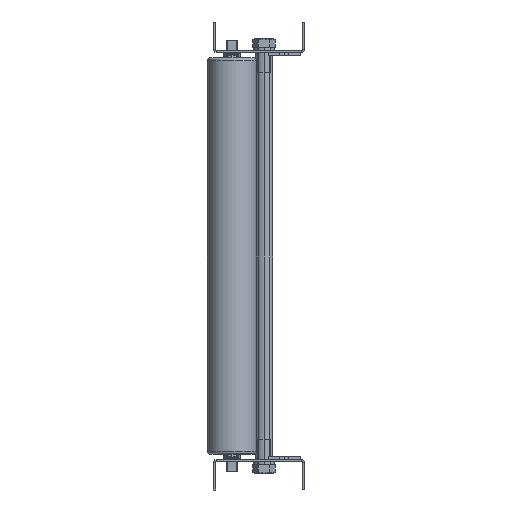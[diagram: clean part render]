
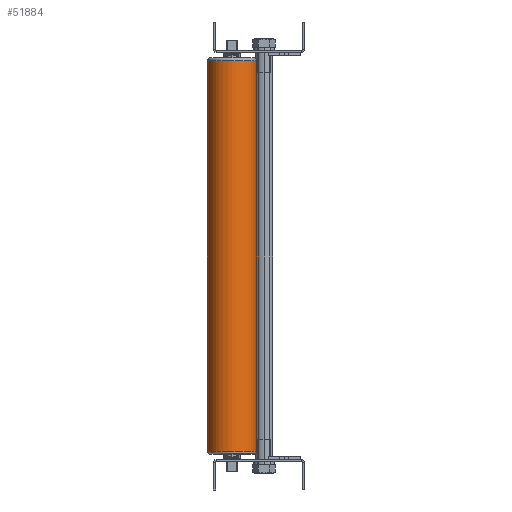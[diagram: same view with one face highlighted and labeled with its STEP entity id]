
A CAD part, left-side view. The second image highlights one B-rep face of the part: STEP entity #51884.
In plain terms, the highlighted cylindrical face has radius 24.3 mm (diameter 48.6 mm), a partial arc.
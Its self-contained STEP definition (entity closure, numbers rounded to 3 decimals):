
#7985 = VERTEX_POINT ( 'NONE', #10286 ) ;
#8436 = AXIS2_PLACEMENT_3D ( 'NONE', #31995, #35472, #36243 ) ;
#9018 = ORIENTED_EDGE ( 'NONE', *, *, #14503, .F. ) ;
#9624 = LINE ( 'NONE', #37870, #42215 ) ;
#10248 = EDGE_CURVE ( 'NONE', #35461, #40352, #44230, .T. ) ;
#10286 = CARTESIAN_POINT ( 'NONE',  ( -1231.041, 259.31, -406.1 ) ) ;
#11194 = FACE_OUTER_BOUND ( 'NONE', #40986, .T. ) ;
#13456 = EDGE_CURVE ( 'NONE', #25773, #35461, #19106, .T. ) ;
#14498 = CIRCLE ( 'NONE', #20419, 24.3 ) ;
#14503 = EDGE_CURVE ( 'NONE', #7985, #40352, #9624, .T. ) ;
#14947 = DIRECTION ( 'NONE',  ( 0., 0., 1. ) ) ;
#15714 = DIRECTION ( 'NONE',  ( -0.167, 0.986, 0. ) ) ;
#15992 = CARTESIAN_POINT ( 'NONE',  ( -1226.99, 235.35, 325.941 ) ) ;
#16649 = DIRECTION ( 'NONE',  ( 0., 0., 1. ) ) ;
#19106 = LINE ( 'NONE', #44448, #36413 ) ;
#20419 = AXIS2_PLACEMENT_3D ( 'NONE', #44690, #16649, #32935 ) ;
#21074 = CARTESIAN_POINT ( 'NONE',  ( -1222.94, 211.39, -406.1 ) ) ;
#21095 = DIRECTION ( 'NONE',  ( 0., 0., 1. ) ) ;
#21346 = ORIENTED_EDGE ( 'NONE', *, *, #10248, .T. ) ;
#22862 = DIRECTION ( 'NONE',  ( 0., 0., 1. ) ) ;
#24780 = AXIS2_PLACEMENT_3D ( 'NONE', #15992, #14947, #15714 ) ;
#25773 = VERTEX_POINT ( 'NONE', #21074 ) ;
#29152 = CARTESIAN_POINT ( 'NONE',  ( -1222.94, 211.39, -22.1 ) ) ;
#31995 = CARTESIAN_POINT ( 'NONE',  ( -1226.99, 235.35, -22.1 ) ) ;
#32254 = ORIENTED_EDGE ( 'NONE', *, *, #13456, .T. ) ;
#32935 = DIRECTION ( 'NONE',  ( -0.167, 0.986, 0. ) ) ;
#35461 = VERTEX_POINT ( 'NONE', #29152 ) ;
#35472 = DIRECTION ( 'NONE',  ( 0., 0., -1. ) ) ;
#35587 = CARTESIAN_POINT ( 'NONE',  ( -1231.041, 259.31, -22.1 ) ) ;
#36243 = DIRECTION ( 'NONE',  ( 0.167, -0.986, 0. ) ) ;
#36413 = VECTOR ( 'NONE', #22862, 1000. ) ;
#37870 = CARTESIAN_POINT ( 'NONE',  ( -1231.041, 259.31, 325.941 ) ) ;
#38545 = ORIENTED_EDGE ( 'NONE', *, *, #42816, .T. ) ;
#40352 = VERTEX_POINT ( 'NONE', #35587 ) ;
#40986 = EDGE_LOOP ( 'NONE', ( #38545, #32254, #21346, #9018 ) ) ;
#42215 = VECTOR ( 'NONE', #21095, 1000. ) ;
#42816 = EDGE_CURVE ( 'NONE', #7985, #25773, #14498, .T. ) ;
#44230 = CIRCLE ( 'NONE', #8436, 24.3 ) ;
#44448 = CARTESIAN_POINT ( 'NONE',  ( -1222.94, 211.39, 325.941 ) ) ;
#44690 = CARTESIAN_POINT ( 'NONE',  ( -1226.99, 235.35, -406.1 ) ) ;
#51496 = CYLINDRICAL_SURFACE ( 'NONE', #24780, 24.3 ) ;
#51884 = ADVANCED_FACE ( 'NONE', ( #11194 ), #51496, .T. ) ;
